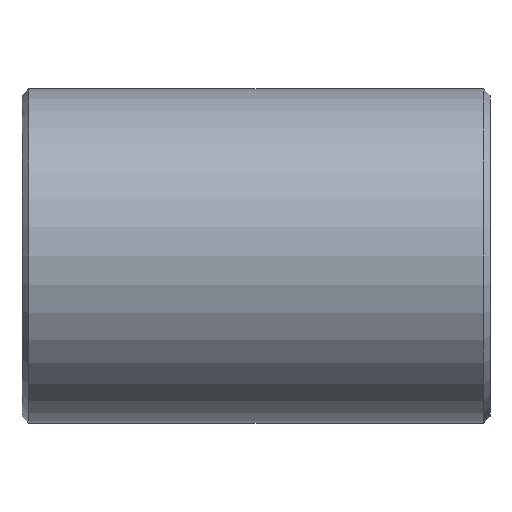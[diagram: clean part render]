
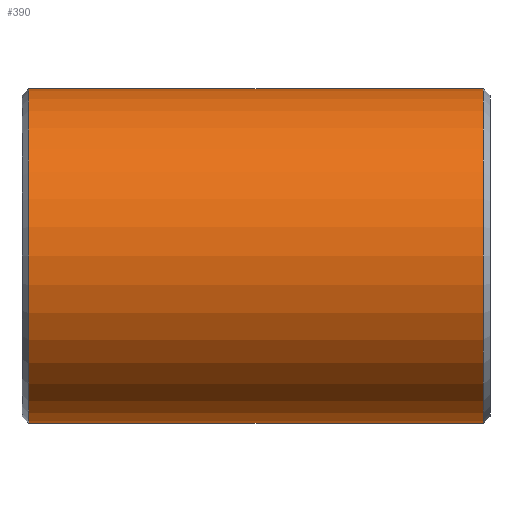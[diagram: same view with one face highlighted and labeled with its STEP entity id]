
A CAD part, left-side view. The second image highlights one B-rep face of the part: STEP entity #390.
In plain terms, the highlighted cylindrical face has radius 12.5 mm (diameter 25 mm), a partial arc.
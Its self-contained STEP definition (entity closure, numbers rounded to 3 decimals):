
#8 = LINE ( 'NONE', #552, #1266 ) ;
#125 = DIRECTION ( 'NONE',  ( 0., 0., 1. ) ) ;
#135 = CARTESIAN_POINT ( 'NONE',  ( 0., 1., 0. ) ) ;
#141 = CARTESIAN_POINT ( 'NONE',  ( 0., -33., 12.5 ) ) ;
#166 = AXIS2_PLACEMENT_3D ( 'NONE', #587, #821, #169 ) ;
#169 = DIRECTION ( 'NONE',  ( 0., 0., 1. ) ) ;
#237 = EDGE_CURVE ( 'NONE', #309, #1029, #662, .T. ) ;
#250 = CARTESIAN_POINT ( 'NONE',  ( 0., 1., -12.5 ) ) ;
#274 = VERTEX_POINT ( 'NONE', #250 ) ;
#309 = VERTEX_POINT ( 'NONE', #993 ) ;
#342 = AXIS2_PLACEMENT_3D ( 'NONE', #135, #565, #125 ) ;
#390 = ADVANCED_FACE ( 'NONE', ( #1277 ), #625, .T. ) ;
#434 = LINE ( 'NONE', #1051, #1081 ) ;
#505 = ORIENTED_EDGE ( 'NONE', *, *, #237, .T. ) ;
#508 = EDGE_LOOP ( 'NONE', ( #629, #505, #1364, #1337 ) ) ;
#552 = CARTESIAN_POINT ( 'NONE',  ( 0., 65.513, 12.5 ) ) ;
#565 = DIRECTION ( 'NONE',  ( 0., -1., 0. ) ) ;
#572 = CARTESIAN_POINT ( 'NONE',  ( 0., -33., 0. ) ) ;
#574 = CIRCLE ( 'NONE', #342, 12.5 ) ;
#587 = CARTESIAN_POINT ( 'NONE',  ( 0., 65.513, 0. ) ) ;
#625 = CYLINDRICAL_SURFACE ( 'NONE', #166, 12.5 ) ;
#629 = ORIENTED_EDGE ( 'NONE', *, *, #820, .F. ) ;
#645 = DIRECTION ( 'NONE',  ( 0., 1., 0. ) ) ;
#659 = CARTESIAN_POINT ( 'NONE',  ( 0., 1., 12.5 ) ) ;
#662 = CIRCLE ( 'NONE', #1309, 12.5 ) ;
#691 = DIRECTION ( 'NONE',  ( 0., 1., 0. ) ) ;
#805 = VERTEX_POINT ( 'NONE', #659 ) ;
#820 = EDGE_CURVE ( 'NONE', #309, #274, #434, .T. ) ;
#821 = DIRECTION ( 'NONE',  ( 0., 1., 0. ) ) ;
#938 = EDGE_CURVE ( 'NONE', #1029, #805, #8, .T. ) ;
#993 = CARTESIAN_POINT ( 'NONE',  ( 0., -33., -12.5 ) ) ;
#1029 = VERTEX_POINT ( 'NONE', #141 ) ;
#1043 = EDGE_CURVE ( 'NONE', #805, #274, #574, .T. ) ;
#1051 = CARTESIAN_POINT ( 'NONE',  ( 0., 65.513, -12.5 ) ) ;
#1081 = VECTOR ( 'NONE', #645, 1000. ) ;
#1090 = DIRECTION ( 'NONE',  ( 0., 0., -1. ) ) ;
#1196 = DIRECTION ( 'NONE',  ( 0., 1., 0. ) ) ;
#1266 = VECTOR ( 'NONE', #1196, 1000. ) ;
#1277 = FACE_OUTER_BOUND ( 'NONE', #508, .T. ) ;
#1309 = AXIS2_PLACEMENT_3D ( 'NONE', #572, #691, #1090 ) ;
#1337 = ORIENTED_EDGE ( 'NONE', *, *, #1043, .T. ) ;
#1364 = ORIENTED_EDGE ( 'NONE', *, *, #938, .T. ) ;
